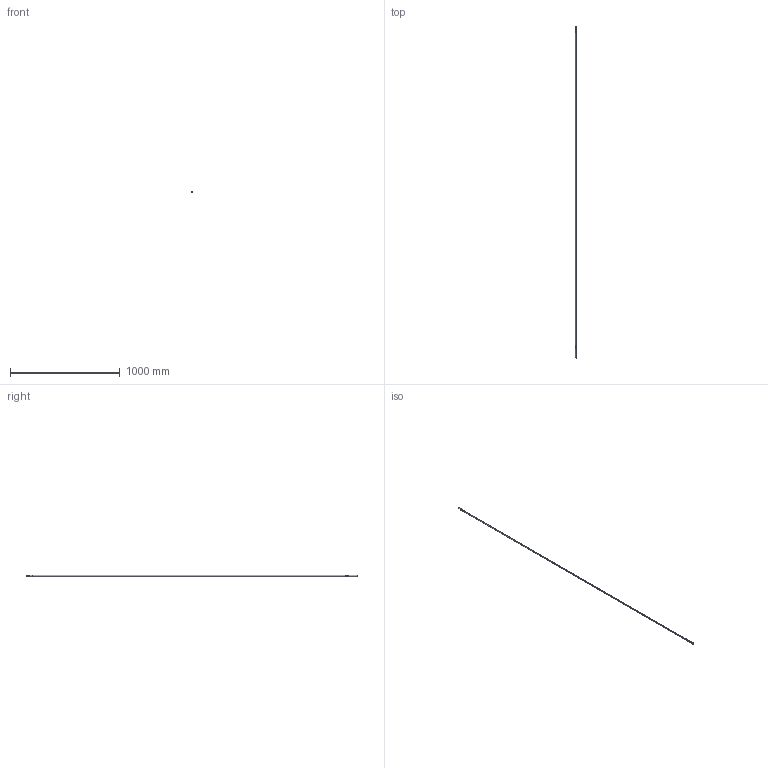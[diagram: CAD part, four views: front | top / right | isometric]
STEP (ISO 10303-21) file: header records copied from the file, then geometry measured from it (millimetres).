
FILE_DESCRIPTION (( 'STEP AP214' ), '1' );
FILE_NAME ('TPL-H-012.STEP', '2024-07-11T04:23:22', ( '' ), ( '' ), 'SwSTEP 2.0', 'SolidWorks 2023', '' );
FILE_SCHEMA (( 'AUTOMOTIVE_DESIGN' ));
Length unit declared in the file: millimetre
Products named in the file (5): Copy of LKC-571 Bolt single flat 12.5mm dia 10.2mm AF - simplified^Hollow rod with bolt and adaptor; TPL-H-012; Copy of LKC-540 Transmission rod aluminium system TPLGen2^Hollow rod with bolt and adaptor_2885mm; Copy of LKC-532 Rod connector - simplified^Hollow rod with bolt and adaptor; Copy of LKC-576 Bolt adaptor - simplified^Hollow rod with bolt and adaptor
Assembly tree (4 placements, depth 2):
  TPL-H-012
    Copy of LKC-532 Rod connector - simplified^Hollow rod with bolt and adaptor
    Copy of LKC-540 Transmission rod aluminium system TPLGen2^Hollow rod with bolt and adaptor_2885mm
    Copy of LKC-576 Bolt adaptor - simplified^Hollow rod with bolt and adaptor
    Copy of LKC-571 Bolt single flat 12.5mm dia 10.2mm AF - simplified^Hollow rod with bolt and adaptor
Bounding box: 12.5 x 3021 x 12.5 mm (x, y, z)
Volume: 154736.3 mm3; surface area: 193957.8 mm2
Topology: 4 solids, 4 shells, 98 faces, 234 edges, 139 vertices
Faces by surface type: cylinder 40, cone 30, plane 24, torus 2, sphere 2
Entity records: 3085 total; most frequent: CARTESIAN_POINT 693, DIRECTION 513, ORIENTED_EDGE 436, EDGE_CURVE 218, AXIS2_PLACEMENT_3D 206, VERTEX_POINT 138, EDGE_LOOP 110, VECTOR 101
